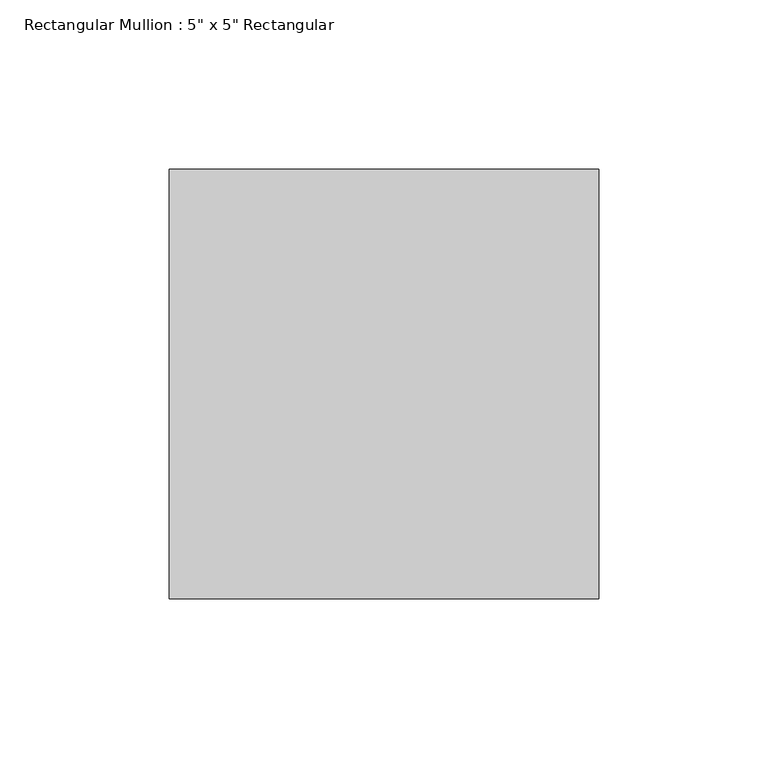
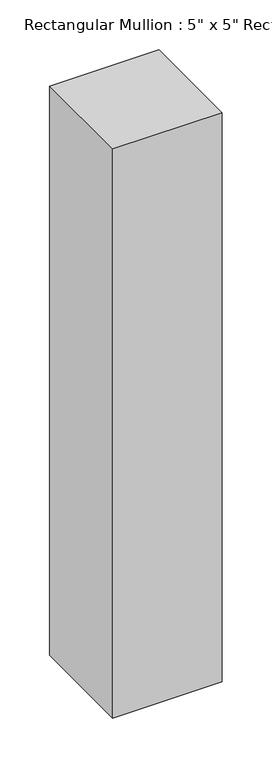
"""IFC4 building model written with IfcOpenShell, lengths in millimetres: member geometry."""

from ifc_helpers import new_model, si_unit, frame, origin, place, context, project, spatial, polyline, outline, extrude, source, transform, mapped, element, save


def member_1bc8ff6f(model_context):
    return source(origin(), model_context, "Body", "SweptSolid", [
        extrude(outline(polyline([(0.0, 63.5), (0.0, -63.5), (-127.0, -63.5), (-127.0, 63.5), (0.0, 63.5)])), frame((0.0, 0.0, -698.5), z_axis=(0.0, 0.0, 1.0), x_axis=(1.0, 0.0, 0.0)), (0.0, 0.0, 1.0), 698.5),
    ])


if __name__ == "__main__":
    model = new_model("IFC4")
    model_context = context("Model", 3, world=origin())
    ifc_project = project(units=[si_unit("LENGTHUNIT", "METRE", prefix="MILLI")], contexts=[model_context])
    site = spatial("IfcSite", under=ifc_project)
    building = spatial("IfcBuilding", under=site)
    placement = place(None, origin())
    member_shape = member_1bc8ff6f(model_context)
    element("IfcMember", 1, ObjectType="Rectangular Mullion : 5\" x 5\" Rectangular", at=placement, inside=building, context=model_context, shape_type="MappedRepresentation", body=[
        mapped(member_shape, transform((0.0, 0.0, 0.0), x_axis=(1.0, 0.0, 0.0), y_axis=(0.0, 1.0, 0.0), z_axis=(0.0, 0.0, 1.0))),
    ])
    save(model, "model.ifc")
